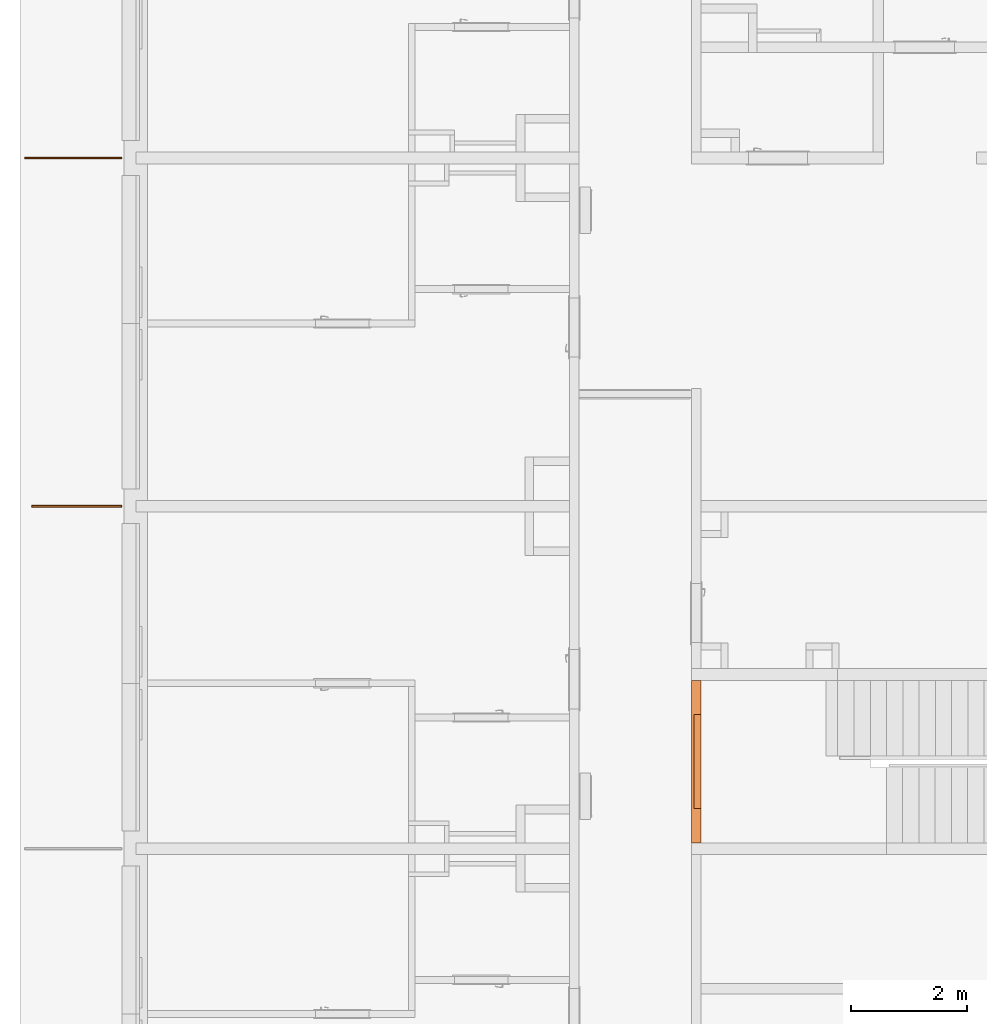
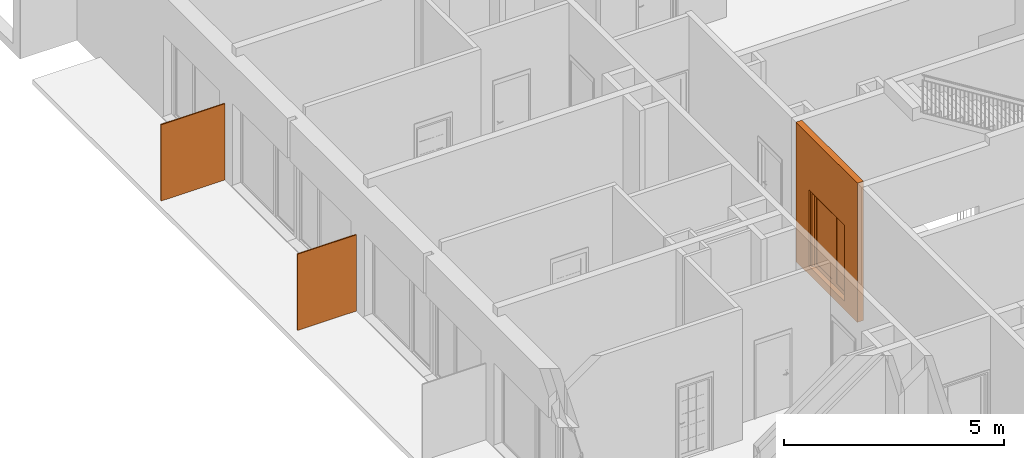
# One storey, part 11 of 46: 4 proxies, 1 opening.
"""IFC2X3 building model written with IfcOpenShell, lengths in millimetres."""

from ifc_helpers import new_model, entity, si_unit, converted_unit, derived_unit, money_unit, direction, frame, origin_with_axes, origin_2d_with_axis, place, context, subcontext, project, spatial, polyline, rectangle, outline, extrude, open_shell, faceted_brep, surface_model, source, transform, mapped, material, type_object, element, fill, save


model = new_model("IFC2X3")

# Units and contexts
model_context = context("Model", 3, precision=0.01, world=origin_with_axes(), true_north=direction((0.34421633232, 0.938890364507)))
body_context = subcontext(model_context, "Body", "Model", "MODEL_VIEW")
ifc_project = project(units=[si_unit("LENGTHUNIT", "METRE", prefix="MILLI"), si_unit("AREAUNIT", "SQUARE_METRE"), si_unit("VOLUMEUNIT", "CUBIC_METRE"), converted_unit("PLANEANGLEUNIT", "DEGREE", entity("IfcPlaneAngleMeasure", 0.0174532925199), si_unit("PLANEANGLEUNIT", "RADIAN"), dimensions=[0, 0, 0, 0, 0, 0, 0]), si_unit("SOLIDANGLEUNIT", "STERADIAN"), money_unit("USD"), converted_unit("TIMEUNIT", "Year", entity("IfcTimeMeasure", 31556926.0), si_unit("TIMEUNIT", "SECOND"), dimensions=[0, 0, 1, 0, 0, 0, 0]), si_unit("MASSUNIT", "GRAM", prefix="KILO"), si_unit("THERMODYNAMICTEMPERATUREUNIT", "DEGREE_CELSIUS"), si_unit("LUMINOUSINTENSITYUNIT", "LUMEN"), si_unit("ENERGYUNIT", "JOULE", prefix="MEGA"), derived_unit("THERMALCONDUCTANCEUNIT", [(si_unit("POWERUNIT", "WATT"), 1), (si_unit("LENGTHUNIT", "METRE"), -1), (si_unit("THERMODYNAMICTEMPERATUREUNIT", "KELVIN"), -1)]), derived_unit("SPECIFICHEATCAPACITYUNIT", [(si_unit("ENERGYUNIT", "JOULE"), 1), (si_unit("MASSUNIT", "GRAM", prefix="KILO"), -1), (si_unit("THERMODYNAMICTEMPERATUREUNIT", "KELVIN"), -1)]), derived_unit("MASSDENSITYUNIT", [(si_unit("MASSUNIT", "GRAM", prefix="KILO"), 1), (si_unit("VOLUMEUNIT", "CUBIC_METRE"), -1)])], contexts=[model_context])

# Site, building, storey
site_placement = place(None, origin_with_axes())
site = spatial("IfcSite", under=ifc_project, at=site_placement, Name="USTRONIE MORSKIE", CompositionType="ELEMENT")
building_placement = place(site_placement, origin_with_axes())
building = spatial("IfcBuilding", under=site, at=building_placement, Name="Budynek", CompositionType="ELEMENT")
storey_placement = place(building_placement, origin_with_axes())
storey = spatial("IfcBuildingStorey", under=building, at=storey_placement, Name="PARTER", CompositionType="ELEMENT", Elevation=0.0)

# Proxies, opening
ifc_material_1 = material(Name="Beton konstrukcyjny B25")
building_element_proxy_type_1 = type_object("IfcBuildingElementProxyType", Name="Beton konstrukcyjny B25 160", PredefinedType="NOTDEFINED")
proxy_1_placement = place(storey_placement, frame((359617.923565, 729901.199036, -230.0), z_axis=(0.0, 0.0, 1.0), x_axis=(0.0, -1.0, 0.0)))
proxy_1 = element("IfcBuildingElementProxy", 1, at=proxy_1_placement, inside=storey, type_object=building_element_proxy_type_1, material=ifc_material_1, Name="SW-01", context=body_context, shape_type="Brep", body=[
    faceted_brep([(2900.0, 80.0, 0.0), (100.0, 80.0, 0.0), (100.0, 80.0, 3870.0), (2900.0, 80.0, 3870.0), (2900.0, -80.0, 0.0), (100.0, -80.0, 0.0), (100.0, -80.0, 3870.0), (2900.0, -80.0, 3870.0)], [[[0, 1, 2, 3]], [[4, 5, 1, 0]], [[5, 6, 2, 1]], [[3, 2, 6, 7]], [[4, 0, 3, 7]], [[7, 6, 5, 4]]]),
])
opening_placement = place(proxy_1_placement, frame((1500.0, 0.0, 230.0), z_axis=(0.0, 0.0, 1.0), x_axis=(1.0, 0.0, 0.0)))
opening = element("IfcOpeningElement", 2, at=opening_placement, cuts=proxy_1, Name="D2", context=body_context, shape_type="SweptSolid", body=[
    extrude(rectangle(XDim=1620.0, YDim=2120.0, at=origin_2d_with_axis()), frame((0.0, -160.0, 1060.0), z_axis=(0.0, -1.0, 0.0), x_axis=(-1.0, 0.0, 0.0)), (0.0, 0.0, -1.0), 480.0),
])
building_element_proxy_type_2 = type_object("IfcBuildingElementProxyType", Name="Drzwi podwójne 23", PredefinedType="NOTDEFINED")
shared_shape = source(origin_with_axes(), body_context, "Body", "SurfaceModel", [
    faceted_brep([(750.0, -40.0, 0.0), (750.0, -115.0, 0.0), (750.0, -115.0, 2050.0), (750.0, -40.0, 2050.0), (762.0, -40.0, 0.0), (762.0, 0.0, 0.0), (810.0, 0.0, 0.0), (810.0, -115.0, 0.0), (810.0, -115.0, 2050.0), (762.0, -40.0, 2050.0), (810.0, 0.0, 2050.0), (762.0, 0.0, 2050.0)], [[[0, 1, 2, 3]], [[4, 5, 6, 7, 1, 0]], [[1, 7, 8, 2]], [[9, 3, 2, 8, 10, 11]], [[9, 4, 0, 3]], [[11, 5, 4, 9]], [[11, 10, 6, 5]], [[6, 10, 8, 7]]]),
    faceted_brep([(-762.0, -40.0, 2050.0), (-762.0, 0.0, 2050.0), (-810.0, 0.0, 2050.0), (-810.0, -115.0, 2050.0), (-750.0, -115.0, 2050.0), (-750.0, -40.0, 2050.0), (-762.0, -40.0, 0.0), (-762.0, 0.0, 0.0), (-810.0, 0.0, 0.0), (-810.0, -115.0, 0.0), (-750.0, -115.0, 0.0), (-750.0, -40.0, 0.0)], [[[0, 1, 2, 3, 4, 5]], [[0, 6, 7, 1]], [[7, 8, 2, 1]], [[2, 8, 9, 3]], [[3, 9, 10, 4]], [[5, 4, 10, 11]], [[5, 11, 6, 0]], [[6, 11, 10, 9, 8, 7]]]),
    faceted_brep([(762.0, 0.0, 2062.0), (-762.0, 0.0, 2062.0), (-762.0, 0.0, 2050.0), (-810.0, 0.0, 2050.0), (-810.0, 0.0, 2120.0), (810.0, 0.0, 2120.0), (810.0, 0.0, 2050.0), (762.0, 0.0, 2050.0), (762.0, -40.0, 2062.0), (-762.0, -40.0, 2062.0), (-762.0, -40.0, 2050.0), (-750.0, -40.0, 2050.0), (-750.0, -115.0, 2050.0), (-810.0, -115.0, 2050.0), (-810.0, -115.0, 2120.0), (810.0, -115.0, 2120.0), (810.0, -115.0, 2050.0), (762.0, -40.0, 2050.0), (750.0, -115.0, 2050.0), (750.0, -40.0, 2050.0)], [[[0, 1, 2, 3, 4, 5, 6, 7]], [[0, 8, 9, 1]], [[1, 9, 10, 2]], [[10, 11, 12, 13, 3, 2]], [[4, 3, 13, 14]], [[5, 4, 14, 15]], [[6, 5, 15, 16]], [[17, 7, 6, 16, 18, 19]], [[7, 17, 8, 0]], [[10, 9, 8, 17, 19, 11]], [[19, 18, 12, 11]], [[12, 18, 16, 15, 14, 13]]]),
    faceted_brep([(-762.0, 0.0, 100.0), (-662.0, 0.0, 100.0), (-662.0, -40.0, 100.0), (-762.0, -40.0, 100.0), (-762.0, 0.0, 1962.0), (-662.0, 0.0, 1962.0), (-662.0, -40.0, 1962.0), (-762.0, -40.0, 1962.0)], [[[0, 1, 2, 3]], [[0, 4, 5, 1]], [[1, 5, 6, 2]], [[3, 2, 6, 7]], [[4, 0, 3, 7]], [[5, 4, 7, 6]]]),
    faceted_brep([(138.0, 0.0, 100.0), (138.0, 0.0, 1962.0), (138.0, -40.0, 1962.0), (138.0, -40.0, 100.0), (38.0, 0.0, 100.0), (38.0, 0.0, 1962.0), (38.0, -40.0, 1962.0), (38.0, -40.0, 100.0)], [[[0, 1, 2, 3]], [[0, 4, 5, 1]], [[1, 5, 6, 2]], [[3, 2, 6, 7]], [[4, 0, 3, 7]], [[5, 4, 7, 6]]]),
    faceted_brep([(-762.0, 0.0, 0.0), (138.0, 0.0, 0.0), (138.0, -40.0, 0.0), (-762.0, -40.0, 0.0), (-762.0, 0.0, 100.0), (-662.0, 0.0, 100.0), (38.0, 0.0, 100.0), (138.0, 0.0, 100.0), (138.0, -40.0, 100.0), (38.0, -40.0, 100.0), (-662.0, -40.0, 100.0), (-762.0, -40.0, 100.0)], [[[0, 1, 2, 3]], [[0, 4, 5, 6, 7, 1]], [[1, 7, 8, 2]], [[3, 2, 8, 9, 10, 11]], [[4, 0, 3, 11]], [[5, 4, 11, 10]], [[6, 5, 10, 9]], [[7, 6, 9, 8]]]),
    faceted_brep([(-762.0, 0.0, 2062.0), (-762.0, 0.0, 1962.0), (-762.0, -40.0, 1962.0), (-762.0, -40.0, 2062.0), (138.0, 0.0, 2062.0), (138.0, 0.0, 1962.0), (38.0, 0.0, 1962.0), (-662.0, 0.0, 1962.0), (-662.0, -40.0, 1962.0), (38.0, -40.0, 1962.0), (138.0, -40.0, 1962.0), (138.0, -40.0, 2062.0)], [[[0, 1, 2, 3]], [[0, 4, 5, 6, 7, 1]], [[1, 7, 8, 2]], [[3, 2, 8, 9, 10, 11]], [[4, 0, 3, 11]], [[5, 4, 11, 10]], [[6, 5, 10, 9]], [[7, 6, 9, 8]]]),
    surface_model("IfcShellBasedSurfaceModel", [(-662.0, -14.0, 100.0), (-662.0, -14.0, 1962.0), (38.0, -14.0, 1962.0), (38.0, -14.0, 100.0)], [open_shell([[[0, 1, 2, 3]]])]),
    surface_model("IfcShellBasedSurfaceModel", [(-662.0, -26.0, 100.0), (38.0, -26.0, 100.0), (38.0, -26.0, 1962.0), (-662.0, -26.0, 1962.0)], [open_shell([[[0, 1, 2, 3]]])]),
    faceted_brep([(762.0, 0.0, 100.0), (762.0, -40.0, 100.0), (662.0, -40.0, 100.0), (662.0, 0.0, 100.0), (762.0, 0.0, 1962.0), (762.0, -40.0, 1962.0), (662.0, -40.0, 1962.0), (662.0, 0.0, 1962.0)], [[[0, 1, 2, 3]], [[4, 5, 1, 0]], [[1, 5, 6, 2]], [[3, 2, 6, 7]], [[0, 3, 7, 4]], [[7, 6, 5, 4]]]),
    faceted_brep([(138.0, 0.0, 100.0), (138.0, -40.0, 100.0), (138.0, -40.0, 1962.0), (138.0, 0.0, 1962.0), (238.0, 0.0, 100.0), (238.0, -40.0, 100.0), (238.0, -40.0, 1962.0), (238.0, 0.0, 1962.0)], [[[0, 1, 2, 3]], [[4, 5, 1, 0]], [[1, 5, 6, 2]], [[3, 2, 6, 7]], [[0, 3, 7, 4]], [[7, 6, 5, 4]]]),
    faceted_brep([(762.0, 0.0, 0.0), (762.0, -40.0, 0.0), (138.0, -40.0, 0.0), (138.0, 0.0, 0.0), (762.0, 0.0, 100.0), (762.0, -40.0, 100.0), (662.0, -40.0, 100.0), (238.0, -40.0, 100.0), (138.0, -40.0, 100.0), (138.0, 0.0, 100.0), (238.0, 0.0, 100.0), (662.0, 0.0, 100.0)], [[[0, 1, 2, 3]], [[4, 5, 1, 0]], [[1, 5, 6, 7, 8, 2]], [[3, 2, 8, 9]], [[0, 3, 9, 10, 11, 4]], [[11, 6, 5, 4]], [[10, 7, 6, 11]], [[9, 8, 7, 10]]]),
    faceted_brep([(762.0, 0.0, 2062.0), (762.0, -40.0, 2062.0), (762.0, -40.0, 1962.0), (762.0, 0.0, 1962.0), (138.0, 0.0, 2062.0), (138.0, -40.0, 2062.0), (138.0, -40.0, 1962.0), (238.0, -40.0, 1962.0), (662.0, -40.0, 1962.0), (662.0, 0.0, 1962.0), (238.0, 0.0, 1962.0), (138.0, 0.0, 1962.0)], [[[0, 1, 2, 3]], [[4, 5, 1, 0]], [[1, 5, 6, 7, 8, 2]], [[3, 2, 8, 9]], [[0, 3, 9, 10, 11, 4]], [[11, 6, 5, 4]], [[10, 7, 6, 11]], [[9, 8, 7, 10]]]),
    surface_model("IfcShellBasedSurfaceModel", [(662.0, -14.0, 100.0), (238.0, -14.0, 100.0), (238.0, -14.0, 1962.0), (662.0, -14.0, 1962.0)], [open_shell([[[0, 1, 2, 3]]])]),
    surface_model("IfcShellBasedSurfaceModel", [(662.0, -26.0, 100.0), (662.0, -26.0, 1962.0), (238.0, -26.0, 1962.0), (238.0, -26.0, 100.0)], [open_shell([[[0, 1, 2, 3]]])]),
])
proxy_2_placement = place(opening_placement, frame((-750.0, 0.0, 0.0), z_axis=(0.0, 0.0, 1.0), x_axis=(1.0, 0.0, 0.0)))
proxy_2 = element("IfcBuildingElementProxy", 3, at=proxy_2_placement, inside=storey, type_object=building_element_proxy_type_2, Name="D2", context=body_context, shape_type="MappedRepresentation", body=[
    mapped(shared_shape, transform((750.0, 80.0, 0.0))),
])
fill(opening, proxy_2)

# Proxies
ifc_material_2 = material(Name="Woda")
building_element_proxy_type_3 = type_object("IfcBuildingElementProxyType", Name="Woda 30", PredefinedType="NOTDEFINED")
proxy_3_placement = place(storey_placement, frame((349717.920919, 738801.199036, 20.0), z_axis=(0.0, 0.0, 1.0), x_axis=(-0.999999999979, -6.40856598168e-06, 0.0)))
element("IfcBuildingElementProxy", 4, at=proxy_3_placement, inside=storey, type_object=building_element_proxy_type_3, material=ifc_material_2, Name="Œciana-007", context=body_context, shape_type="SweptSolid", body=[
    extrude(outline(polyline([(0.0, -14.9999999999), (1670.00000003, -14.9999999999), (1670.00000003, 15.0000000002), (0.0, 15.0000000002), (0.0, -14.9999999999)])), origin_with_axes(), (0.0, 0.0, 1.0), 2120.0),
])
proxy_4_placement = place(storey_placement, frame((349717.920919, 732801.199036, 20.0), z_axis=(0.0, 0.0, 1.0), x_axis=(-0.999999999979, -6.40856595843e-06, 0.0)))
element("IfcBuildingElementProxy", 5, at=proxy_4_placement, inside=storey, type_object=building_element_proxy_type_3, material=ifc_material_2, Name="Œciana-007", context=body_context, shape_type="SweptSolid", body=[
    extrude(outline(polyline([(0.0, -15.0000000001), (1550.00009616, -15.0000000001), (1550.00009616, 15.0), (0.0, 15.0), (0.0, -15.0000000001)])), origin_with_axes(), (0.0, 0.0, 1.0), 2120.0),
])

save(model, "model.ifc")
